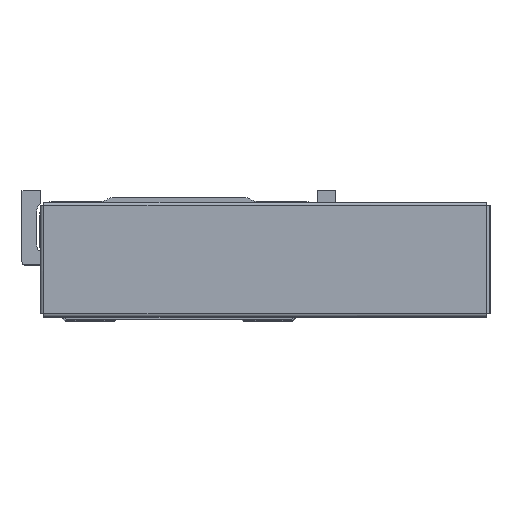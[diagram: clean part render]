
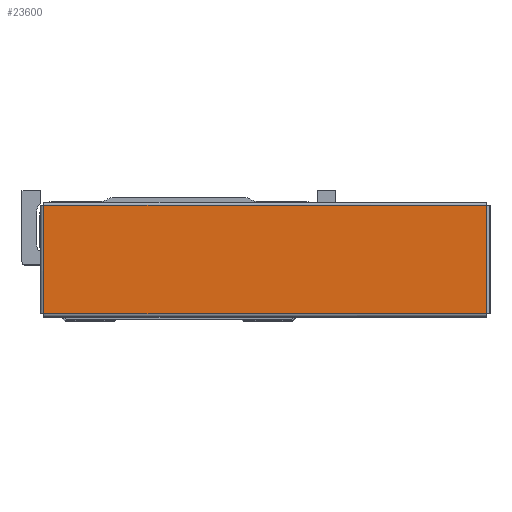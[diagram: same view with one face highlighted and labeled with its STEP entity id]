
A CAD part, top view. The second image highlights one B-rep face of the part: STEP entity #23600.
In plain terms, the highlighted planar face has unit normal (0, 0, 1) as drawn and (0, -1, 0) by its records, which use the part's own axes.
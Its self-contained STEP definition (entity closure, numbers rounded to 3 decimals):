
#1151 = FACE_OUTER_BOUND ( 'NONE', #20972, .T. ) ;
#3532 = PLANE ( 'NONE',  #46597 ) ;
#3534 = CARTESIAN_POINT ( 'NONE',  ( 0., -1.2, 0. ) ) ;
#3542 = DIRECTION ( 'NONE',  ( 0., 1., 0. ) ) ;
#3543 = DIRECTION ( 'NONE',  ( 0., 0., 1. ) ) ;
#7303 = CARTESIAN_POINT ( 'NONE',  ( 128.363, -1.2, -31.363 ) ) ;
#7322 = CARTESIAN_POINT ( 'NONE',  ( -128.363, -1.2, -31.363 ) ) ;
#7340 = CARTESIAN_POINT ( 'NONE',  ( -128.363, -1.2, 31.363 ) ) ;
#7351 = CARTESIAN_POINT ( 'NONE',  ( 128.363, -1.2, 31.363 ) ) ;
#7621 = VERTEX_POINT ( 'NONE', #7303 ) ;
#7659 = VERTEX_POINT ( 'NONE', #7322 ) ;
#7675 = VERTEX_POINT ( 'NONE', #7340 ) ;
#7720 = VERTEX_POINT ( 'NONE', #7351 ) ;
#14647 = CARTESIAN_POINT ( 'NONE',  ( 128.393, -1.2, 31.363 ) ) ;
#14649 = DIRECTION ( 'NONE',  ( -1., 0., 0. ) ) ;
#14754 = CARTESIAN_POINT ( 'NONE',  ( -128.363, -1.2, 31.393 ) ) ;
#14756 = CARTESIAN_POINT ( 'NONE',  ( -128.393, -1.2, -31.363 ) ) ;
#14758 = DIRECTION ( 'NONE',  ( 1., 0., 0. ) ) ;
#14764 = DIRECTION ( 'NONE',  ( 0., 0., -1. ) ) ;
#15013 = CARTESIAN_POINT ( 'NONE',  ( 128.363, -1.2, -31.393 ) ) ;
#15016 = DIRECTION ( 'NONE',  ( 0., 0., 1. ) ) ;
#15414 = LINE ( 'NONE', #14647, #15503 ) ;
#15503 = VECTOR ( 'NONE', #14649, 1000. ) ;
#15650 = LINE ( 'NONE', #14754, #15713 ) ;
#15684 = VECTOR ( 'NONE', #14758, 1000. ) ;
#15703 = LINE ( 'NONE', #14756, #15684 ) ;
#15713 = VECTOR ( 'NONE', #14764, 1000. ) ;
#15735 = VECTOR ( 'NONE', #15016, 1000. ) ;
#15742 = LINE ( 'NONE', #15013, #15735 ) ;
#20972 = EDGE_LOOP ( 'NONE', ( #36611, #36659, #36663, #36605 ) ) ;
#23600 = ADVANCED_FACE ( 'NONE', ( #1151 ), #3532, .F. ) ;
#36605 = ORIENTED_EDGE ( 'NONE', *, *, #45034, .T. ) ;
#36611 = ORIENTED_EDGE ( 'NONE', *, *, #44934, .T. ) ;
#36659 = ORIENTED_EDGE ( 'NONE', *, *, #44987, .T. ) ;
#36663 = ORIENTED_EDGE ( 'NONE', *, *, #44993, .T. ) ;
#44934 = EDGE_CURVE ( 'NONE', #7720, #7675, #15414, .T. ) ;
#44987 = EDGE_CURVE ( 'NONE', #7675, #7659, #15650, .T. ) ;
#44993 = EDGE_CURVE ( 'NONE', #7659, #7621, #15703, .T. ) ;
#45034 = EDGE_CURVE ( 'NONE', #7621, #7720, #15742, .T. ) ;
#46597 = AXIS2_PLACEMENT_3D ( 'NONE', #3534, #3542, #3543 ) ;
